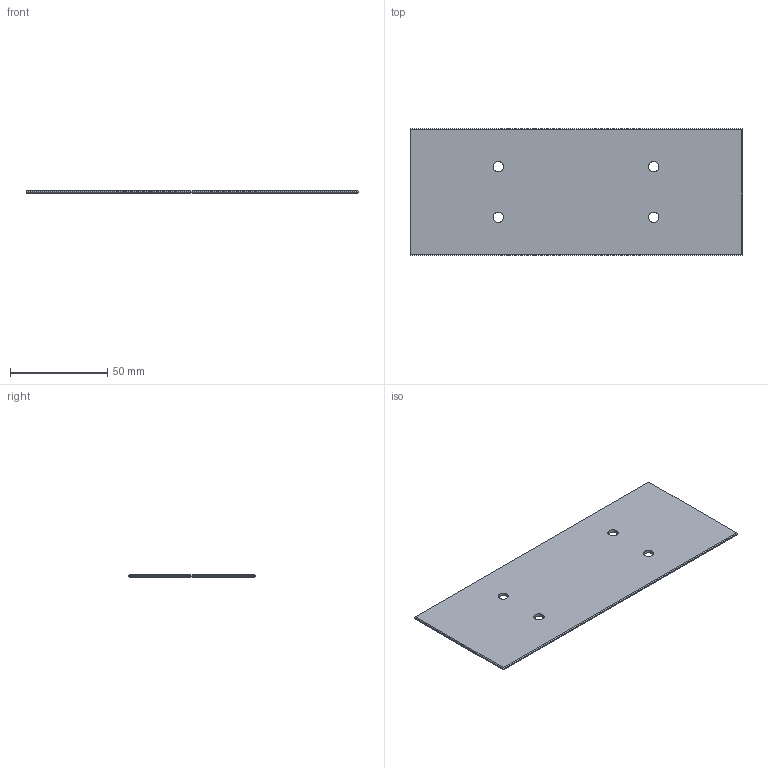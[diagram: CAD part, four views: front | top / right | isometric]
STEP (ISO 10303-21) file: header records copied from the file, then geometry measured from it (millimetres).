
FILE_DESCRIPTION(('FreeCAD Model'),'2;1');
FILE_NAME('Open CASCADE Shape Model','2025-06-30T15:07:18',(''),(''), 'Open CASCADE STEP processor 7.6','FreeCAD','Unknown');
FILE_SCHEMA(('CONFIG_CONTROL_DESIGN','SHAPE_APPEARANCE_LAYER_MIM'));
Length unit declared in the file: millimetre
Products named in the file (1): CCDAssemblySupportPlane
Bounding box: 171 x 65 x 1.5 mm (x, y, z)
Volume: 16422.5 mm3; surface area: 22584.1 mm2
Topology: 1 solids, 1 shells, 18 faces, 40 edges, 24 vertices
Faces by surface type: plane 14, cylinder 4
Full cylindrical faces by diameter (mm): 5.3 x4
Entity records: 556 total; most frequent: DIRECTION 86, CARTESIAN_POINT 83, ORIENTED_EDGE 80, EDGE_CURVE 40, LINE 32, VECTOR 32, AXIS2_PLACEMENT_3D 27, FACE_BOUND 26
